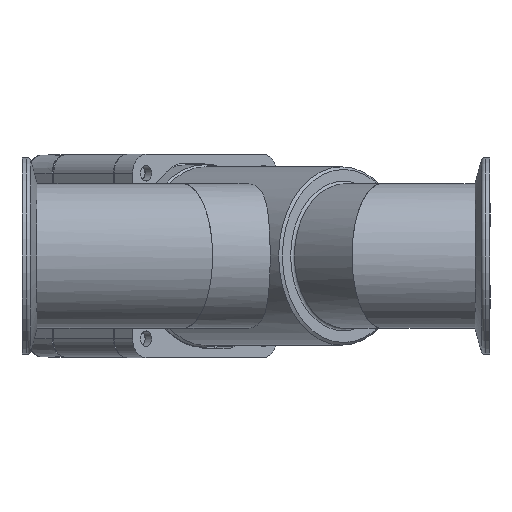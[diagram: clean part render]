
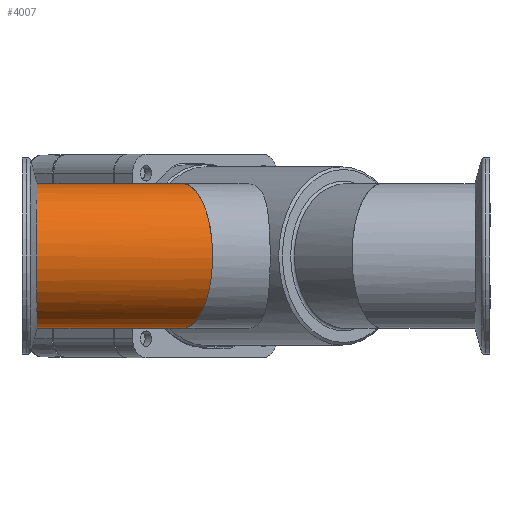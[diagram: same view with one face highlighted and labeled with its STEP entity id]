
A CAD part, front view. The second image highlights one B-rep face of the part: STEP entity #4007.
In plain terms, the highlighted cylindrical face has radius 27.5 mm (diameter 55 mm), a full revolution.
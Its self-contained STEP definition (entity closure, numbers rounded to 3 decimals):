
#1899=ELLIPSE('',#12105,29.766,27.5);
#2739=CYLINDRICAL_SURFACE('',#12106,27.5);
#3018=FACE_BOUND('',#5368,.T.);
#3019=FACE_BOUND('',#5369,.T.);
#3468=CIRCLE('',#12104,27.5);
#4007=ADVANCED_FACE('',(#3018,#3019),#2739,.T.);
#5368=EDGE_LOOP('',(#7666));
#5369=EDGE_LOOP('',(#7667));
#7666=ORIENTED_EDGE('',*,*,#9870,.F.);
#7667=ORIENTED_EDGE('',*,*,#9871,.F.);
#8692=VERTEX_POINT('',#18069);
#8693=VERTEX_POINT('',#18071);
#9870=EDGE_CURVE('',#8692,#8692,#3468,.T.);
#9871=EDGE_CURVE('',#8693,#8693,#1899,.T.);
#12104=AXIS2_PLACEMENT_3D('',#18068,#14381,#14382);
#12105=AXIS2_PLACEMENT_3D('',#18070,#14383,#14384);
#12106=AXIS2_PLACEMENT_3D('',#18072,#14385,#14386);
#14381=DIRECTION('',(-1.,0.,0.));
#14382=DIRECTION('',(0.,0.,1.));
#14383=DIRECTION('',(0.924,0.383,0.));
#14384=DIRECTION('',(-0.383,0.924,0.));
#14385=DIRECTION('',(-1.,0.,0.));
#14386=DIRECTION('',(0.,0.,1.));
#18068=CARTESIAN_POINT('',(5.667,0.,0.));
#18069=CARTESIAN_POINT('',(5.667,0.,27.5));
#18070=CARTESIAN_POINT('',(61.093,0.,0.));
#18071=CARTESIAN_POINT('',(49.702,27.5,0.));
#18072=CARTESIAN_POINT('',(0.,0.,0.));
